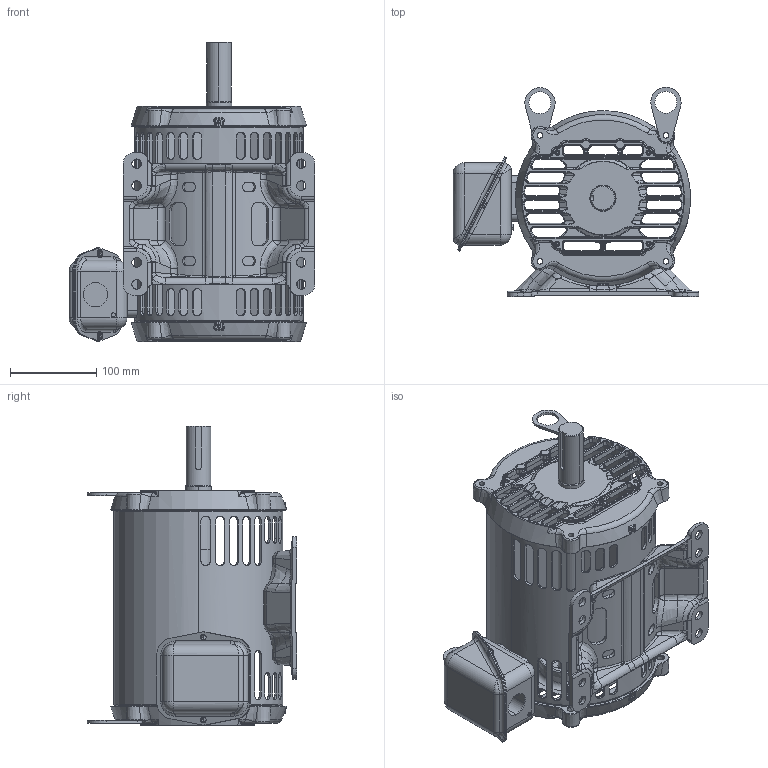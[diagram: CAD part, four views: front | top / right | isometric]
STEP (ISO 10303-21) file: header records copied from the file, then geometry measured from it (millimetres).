
FILE_DESCRIPTION((''),'2;1');
FILE_NAME('184_GP_ASSY_ASM','2016-06-09T',('emd2341'),('Nidec Motor Corporation'),'PRO/ENGINEER BY PARAMETRIC TECHNOLOGY CORPORATION, 2013150','PRO/ENGINEER BY PARAMETRIC TECHNOLOGY CORPORATION, 2013150','');
FILE_SCHEMA(('CONFIG_CONTROL_DESIGN'));
Length unit declared in the file: inch
Products named in the file (16): 2036936_AF0; 0380228; 2034250-BKT_AF0; 2033996-002_AF0; 2026213_ASM; 0541983; 0027197; 2038237; 2026212-BKT_AF0; 2033996-002_AF1; 2026214_ASM; 0362988; 0390418; 0390928; 0390417; 184_GP_ASSY_ASM
Assembly tree (16 placements, depth 3):
  184_GP_ASSY_ASM
    2036936_AF0
    0380228
    2026213_ASM
      2034250-BKT_AF0
      2033996-002_AF0
    0541983
    0027197
    2038237
    2026214_ASM
      2026212-BKT_AF0
      2033996-002_AF1
    0362988  x2
    0390418
    0390928
    0390417
Bounding box: 284.68 x 242.27 x 347.3 mm (x, y, z)
Volume: 1271469 mm3; surface area: 683510.6 mm2
Topology: 16 solids, 16 shells, 3441 faces, 8436 edges, 5006 vertices
Faces by surface type: bspline 1198, cylinder 830, plane 592, cone 389, torus 372, sphere 60
Entity records: 169266 total; most frequent: CARTESIAN_POINT 96533, ORIENTED_EDGE 16770, DIRECTION 13097, EDGE_CURVE 8385, AXIS2_PLACEMENT_3D 5424, VERTEX_POINT 4990, EDGE_LOOP 3661, FACE_OUTER_BOUND 3431
